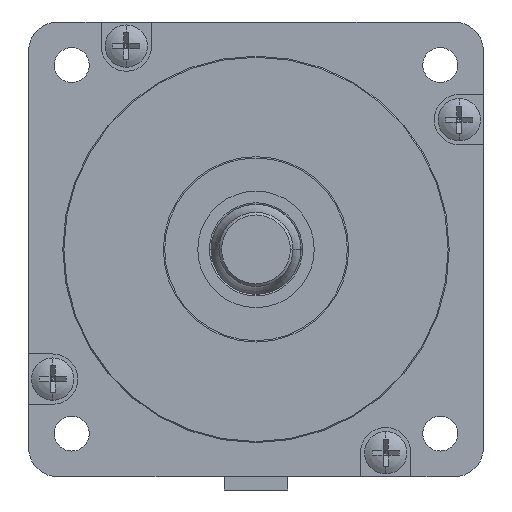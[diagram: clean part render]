
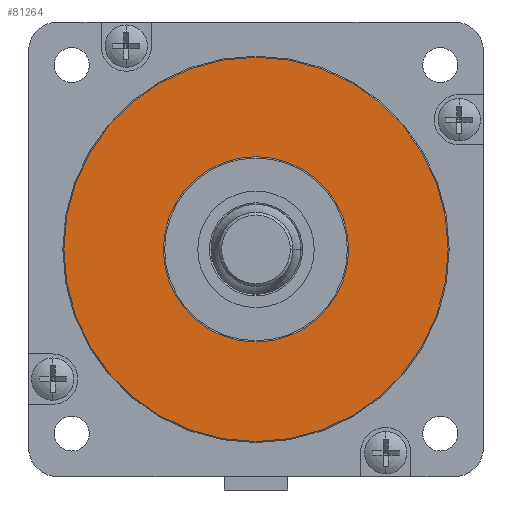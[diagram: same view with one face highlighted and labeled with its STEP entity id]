
A CAD part, front view. The second image highlights one B-rep face of the part: STEP entity #81264.
In plain terms, the highlighted planar face has unit normal (0, -1, 0).
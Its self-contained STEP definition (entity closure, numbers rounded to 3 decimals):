
#18712=CARTESIAN_POINT('',(0.,35.,0.));
#18713=DIRECTION('',(0.,-1.,0.));
#18714=DIRECTION('',(0.,0.,-1.));
#18715=AXIS2_PLACEMENT_3D('',#18712,#18713,#18714);
#18717=CARTESIAN_POINT('',(0.,35.,0.));
#18718=DIRECTION('',(0.,-1.,0.));
#18719=DIRECTION('',(0.,0.,1.));
#18720=AXIS2_PLACEMENT_3D('',#18717,#18718,#18719);
#18722=CARTESIAN_POINT('',(0.,35.,0.));
#18723=DIRECTION('',(0.,-1.,0.));
#18724=DIRECTION('',(0.,0.,-1.));
#18725=AXIS2_PLACEMENT_3D('',#18722,#18723,#18724);
#18727=CARTESIAN_POINT('',(0.,35.,0.));
#18728=DIRECTION('',(0.,-1.,0.));
#18729=DIRECTION('',(0.,0.,1.));
#18730=AXIS2_PLACEMENT_3D('',#18727,#18728,#18729);
#51328=CARTESIAN_POINT('',(0.,35.,-17.5));
#51329=CARTESIAN_POINT('',(0.,35.,17.5));
#51330=VERTEX_POINT('',#51328);
#51331=VERTEX_POINT('',#51329);
#51554=CARTESIAN_POINT('',(0.,35.,-36.3));
#51555=CARTESIAN_POINT('',(0.,35.,36.3));
#51556=VERTEX_POINT('',#51554);
#51557=VERTEX_POINT('',#51555);
#81248=CARTESIAN_POINT('',(0.,35.,0.));
#81249=DIRECTION('',(0.,1.,0.));
#81250=DIRECTION('',(0.,0.,-1.));
#81251=AXIS2_PLACEMENT_3D('',#81248,#81249,#81250);
#81252=PLANE('',#81251);
#81253=ORIENTED_EDGE('',*,*,#81238,.F.);
#81255=ORIENTED_EDGE('',*,*,#81254,.F.);
#81256=EDGE_LOOP('',(#81253,#81255));
#81257=FACE_OUTER_BOUND('',#81256,.F.);
#81259=ORIENTED_EDGE('',*,*,#81258,.T.);
#81261=ORIENTED_EDGE('',*,*,#81260,.T.);
#81262=EDGE_LOOP('',(#81259,#81261));
#81263=FACE_BOUND('',#81262,.F.);
#81264=ADVANCED_FACE('',(#81257,#81263),#81252,.F.);
#18716=CIRCLE('',#18715,36.3);
#18721=CIRCLE('',#18720,36.3);
#18726=CIRCLE('',#18725,17.5);
#18731=CIRCLE('',#18730,17.5);
#81238=EDGE_CURVE('',#51556,#51557,#18716,.T.);
#81254=EDGE_CURVE('',#51557,#51556,#18721,.T.);
#81258=EDGE_CURVE('',#51330,#51331,#18726,.T.);
#81260=EDGE_CURVE('',#51331,#51330,#18731,.T.);
